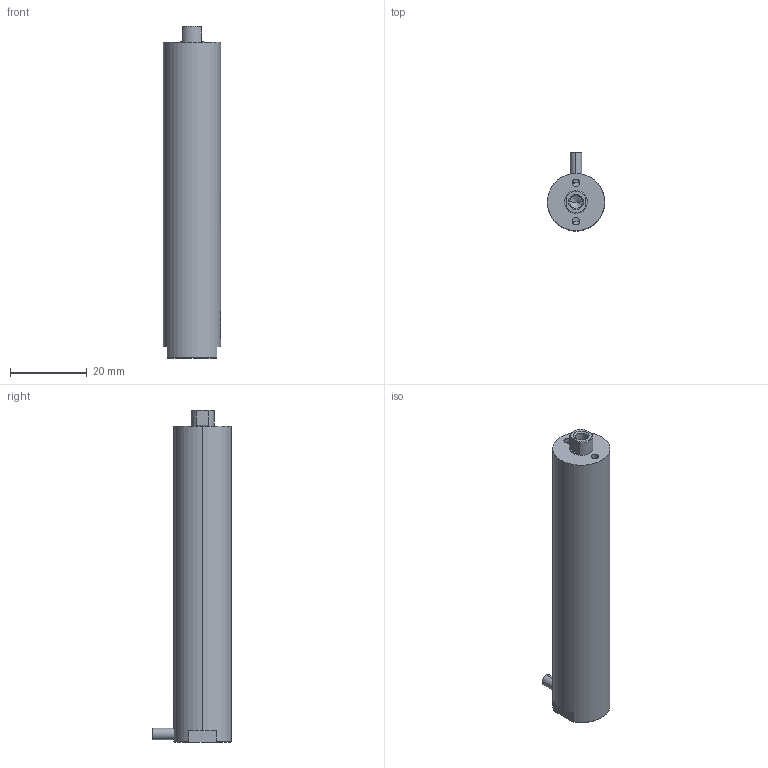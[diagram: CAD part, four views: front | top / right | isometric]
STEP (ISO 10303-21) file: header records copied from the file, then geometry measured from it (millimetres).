
FILE_DESCRIPTION (( 'STEP AP203' ), '1' );
FILE_NAME ('80VS15囀蹟恇.STEP', '2024-11-30T06:18:02', ( 'daohangxitong.com' ), ( 'daohangxitong.com' ), 'SwSTEP 2.0', 'SolidWorks 2016', '' );
FILE_SCHEMA (( 'CONFIG_CONTROL_DESIGN' ));
Products named in the file (1): 80VS15囀蹟恇
Bounding box: 15 x 20.5 x 86.7 mm (x, y, z)
Volume: 14595 mm3; surface area: 4485.7 mm2
Topology: 1 solids, 1 shells, 940 faces, 2700 edges, 1792 vertices
Faces by surface type: bspline 826, cylinder 51, plane 47, cone 16
Entity records: 50709 total; most frequent: CARTESIAN_POINT 33459, ORIENTED_EDGE 5384, EDGE_CURVE 2692, B_SPLINE_CURVE_WITH_KNOTS 2530, VERTEX_POINT 1792, EDGE_LOOP 978, ADVANCED_FACE 940, FACE_OUTER_BOUND 940
